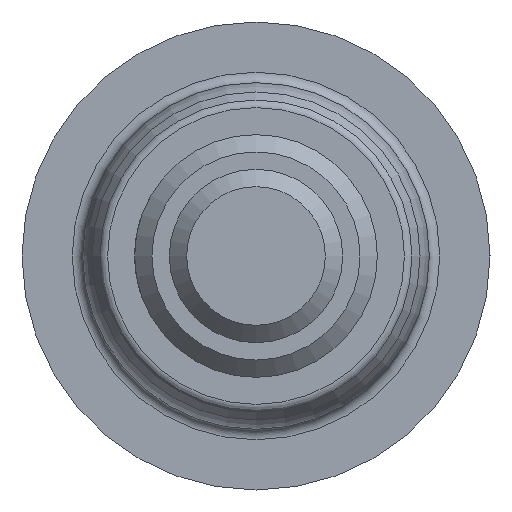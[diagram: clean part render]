
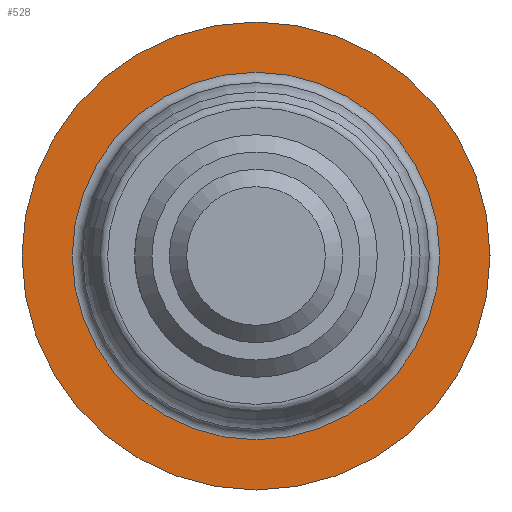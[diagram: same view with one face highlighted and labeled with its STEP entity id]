
A CAD part, left-side view. The second image highlights one B-rep face of the part: STEP entity #528.
In plain terms, the highlighted planar face has unit normal (-1, 0, 0).
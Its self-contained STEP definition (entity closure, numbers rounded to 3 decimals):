
#24=FACE_BOUND($,#169,.T.);
#70=CIRCLE($,#581,10.6);
#72=CIRCLE($,#585,13.5);
#129=FACE_OUTER_BOUND($,#168,.T.);
#168=EDGE_LOOP($,(#444));
#169=EDGE_LOOP($,(#445));
#284=VERTEX_POINT($,#966);
#286=VERTEX_POINT($,#972);
#348=EDGE_CURVE($,#284,#284,#70,.T.);
#350=EDGE_CURVE($,#286,#286,#72,.T.);
#444=ORIENTED_EDGE($,*,*,#350,.F.);
#445=ORIENTED_EDGE($,*,*,#348,.F.);
#506=PLANE($,#584);
#528=ADVANCED_FACE($,(#129,#24),#506,.T.);
#581=AXIS2_PLACEMENT_3D($,#967,#702,#703);
#584=AXIS2_PLACEMENT_3D($,#971,#708,#709);
#585=AXIS2_PLACEMENT_3D($,#973,#710,#711);
#702=DIRECTION('center_axis',(-1.,0.,0.));
#703=DIRECTION('ref_axis',(0.,-1.,0.));
#708=DIRECTION('center_axis',(-1.,0.,0.));
#709=DIRECTION('ref_axis',(0.,0.,1.));
#710=DIRECTION('center_axis',(1.,0.,0.));
#711=DIRECTION('ref_axis',(0.,0.,-1.));
#966=CARTESIAN_POINT('',(62.,10.6,0.));
#967=CARTESIAN_POINT('Origin',(62.,0.,0.));
#971=CARTESIAN_POINT('Origin',(62.,13.5,0.));
#972=CARTESIAN_POINT('',(62.,13.5,0.));
#973=CARTESIAN_POINT('Origin',(62.,0.,0.));
